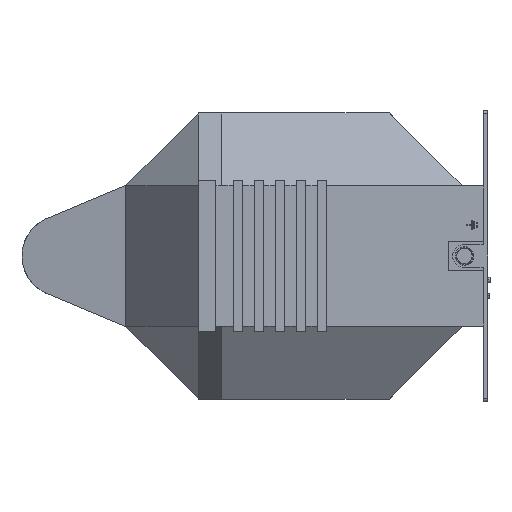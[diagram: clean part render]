
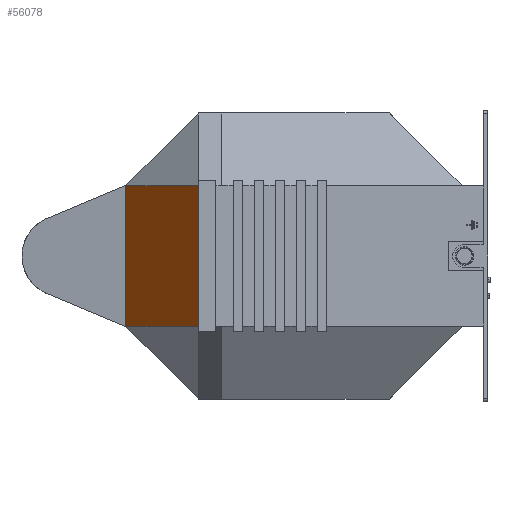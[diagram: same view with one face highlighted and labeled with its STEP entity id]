
A CAD part, left-side view. The second image highlights one B-rep face of the part: STEP entity #56078.
In plain terms, the highlighted planar face has unit normal (-0.613, 0.79, 0).
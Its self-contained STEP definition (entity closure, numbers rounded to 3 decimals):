
#31 = AXIS2_PLACEMENT_3D ( 'NONE', #33521, #55322, #29330 ) ;
#797 = EDGE_CURVE ( 'NONE', #2111, #31584, #44091, .T. ) ;
#2111 = VERTEX_POINT ( 'NONE', #8715 ) ;
#8715 = CARTESIAN_POINT ( 'NONE',  ( -80., 153., -60.5 ) ) ;
#9493 = EDGE_CURVE ( 'NONE', #50976, #51957, #45992, .T. ) ;
#10844 = DIRECTION ( 'NONE',  ( 0., 0., 1. ) ) ;
#12416 = ORIENTED_EDGE ( 'NONE', *, *, #9493, .T. ) ;
#15652 = CARTESIAN_POINT ( 'NONE',  ( -80., 153., 60.5 ) ) ;
#16018 = LINE ( 'NONE', #25852, #27529 ) ;
#18464 = FACE_OUTER_BOUND ( 'NONE', #42234, .T. ) ;
#20531 = PLANE ( 'NONE',  #31 ) ;
#22803 = VECTOR ( 'NONE', #44060, 1000. ) ;
#24566 = DIRECTION ( 'NONE',  ( 0.79, 0.613, 0.005 ) ) ;
#25852 = CARTESIAN_POINT ( 'NONE',  ( -80., 153., -60.5 ) ) ;
#27529 = VECTOR ( 'NONE', #34608, 1000. ) ;
#27709 = VECTOR ( 'NONE', #24566, 1000. ) ;
#28355 = CARTESIAN_POINT ( 'NONE',  ( -160., 91., -60. ) ) ;
#29330 = DIRECTION ( 'NONE',  ( 0.79, 0.613, 0. ) ) ;
#31584 = VERTEX_POINT ( 'NONE', #15652 ) ;
#31826 = EDGE_CURVE ( 'NONE', #50976, #2111, #16018, .T. ) ;
#33521 = CARTESIAN_POINT ( 'NONE',  ( -80., 153., -170. ) ) ;
#34608 = DIRECTION ( 'NONE',  ( 0.79, 0.613, -0.005 ) ) ;
#35255 = VECTOR ( 'NONE', #10844, 1000. ) ;
#37727 = CARTESIAN_POINT ( 'NONE',  ( -160., 91., 60. ) ) ;
#39097 = EDGE_CURVE ( 'NONE', #51957, #31584, #50904, .T. ) ;
#40262 = CARTESIAN_POINT ( 'NONE',  ( -80., 153., -170. ) ) ;
#41364 = ORIENTED_EDGE ( 'NONE', *, *, #797, .F. ) ;
#41869 = CARTESIAN_POINT ( 'NONE',  ( -160., 91., 60. ) ) ;
#42234 = EDGE_LOOP ( 'NONE', ( #44863, #41364, #43123, #12416 ) ) ;
#43123 = ORIENTED_EDGE ( 'NONE', *, *, #31826, .F. ) ;
#44060 = DIRECTION ( 'NONE',  ( 0., 0., 1. ) ) ;
#44091 = LINE ( 'NONE', #40262, #35255 ) ;
#44863 = ORIENTED_EDGE ( 'NONE', *, *, #39097, .T. ) ;
#45992 = LINE ( 'NONE', #48269, #22803 ) ;
#48269 = CARTESIAN_POINT ( 'NONE',  ( -160., 91., 122.5 ) ) ;
#50904 = LINE ( 'NONE', #37727, #27709 ) ;
#50976 = VERTEX_POINT ( 'NONE', #28355 ) ;
#51957 = VERTEX_POINT ( 'NONE', #41869 ) ;
#55322 = DIRECTION ( 'NONE',  ( 0.613, -0.79, 0. ) ) ;
#56078 = ADVANCED_FACE ( 'NONE', ( #18464 ), #20531, .F. ) ;
